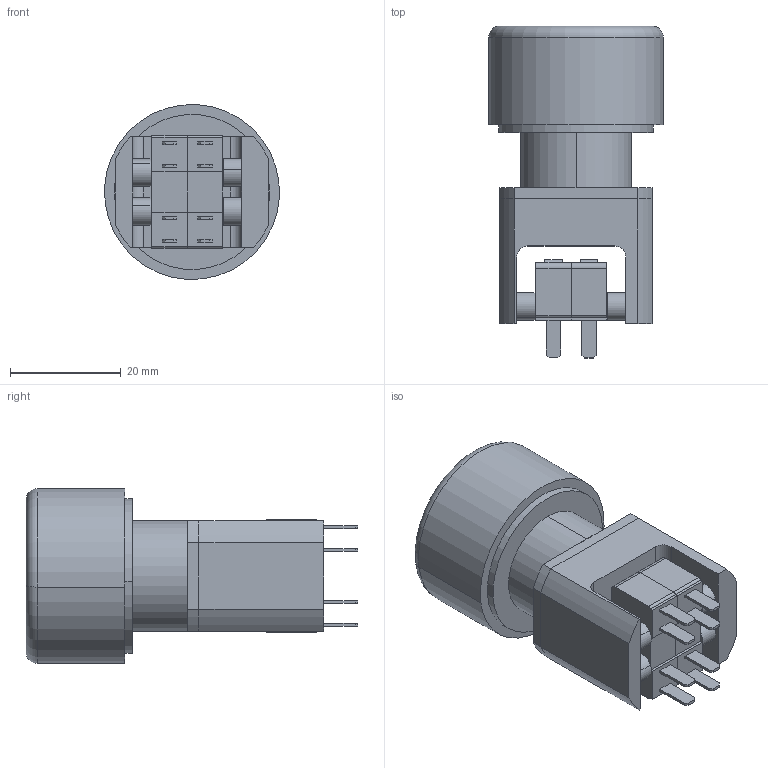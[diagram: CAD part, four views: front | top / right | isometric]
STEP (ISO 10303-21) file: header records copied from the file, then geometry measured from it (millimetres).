
FILE_DESCRIPTION (( 'STEP AP214' ), '1' );
FILE_NAME ('016P3PCG22F.STEP', '2025-06-05T06:18:14', ( '' ), ( '' ), 'SwSTEP 2.0', 'SolidWorks 2013', '' );
FILE_SCHEMA (( 'AUTOMOTIVE_DESIGN' ));
Length unit declared in the file: millimetre
Products named in the file (8): (160009); Cap; (160015); (160001); (167005); 016GP28; 016P3PCG22F; (160002)
Assembly tree (11 placements, depth 2):
  016P3PCG22F
    (160015)
    (160002)
    (160009)  x4
    (167005)  x2
    (160001)
    016GP28
    Cap
Bounding box: 31.56 x 59.9 x 31.56 mm (x, y, z)
Volume: 22392.5 mm3; surface area: 18891.3 mm2
Topology: 14 solids, 14 shells, 249 faces, 583 edges, 378 vertices
Faces by surface type: plane 135, cylinder 88, bspline 10, cone 8, torus 8
Entity records: 7405 total; most frequent: CARTESIAN_POINT 1154, DIRECTION 902, ORIENTED_EDGE 782, EDGE_CURVE 391, AXIS2_PLACEMENT_3D 338, VERTEX_POINT 250, VECTOR 226, LINE 226
